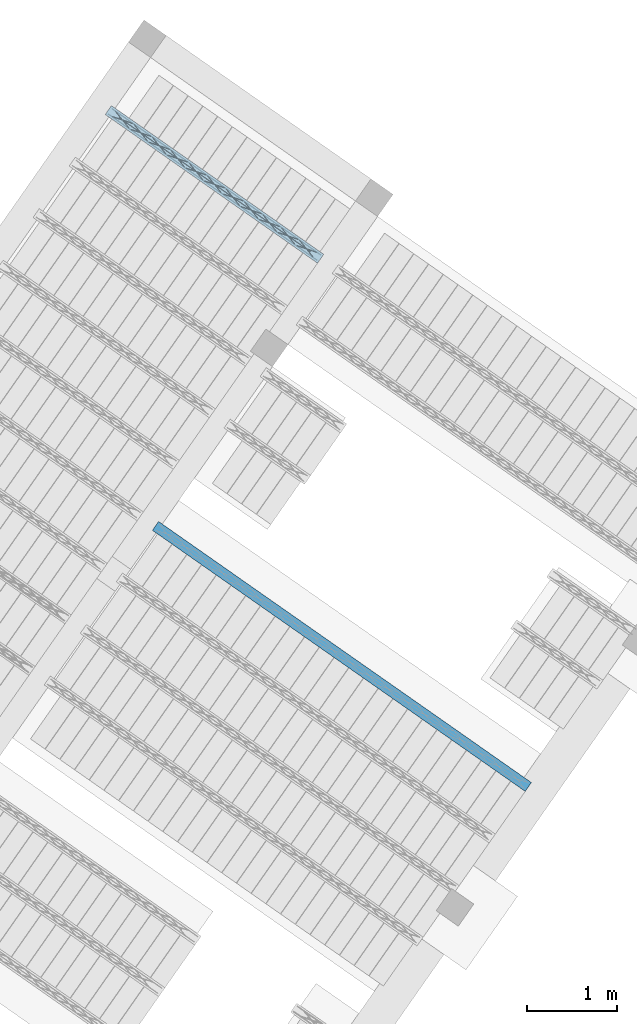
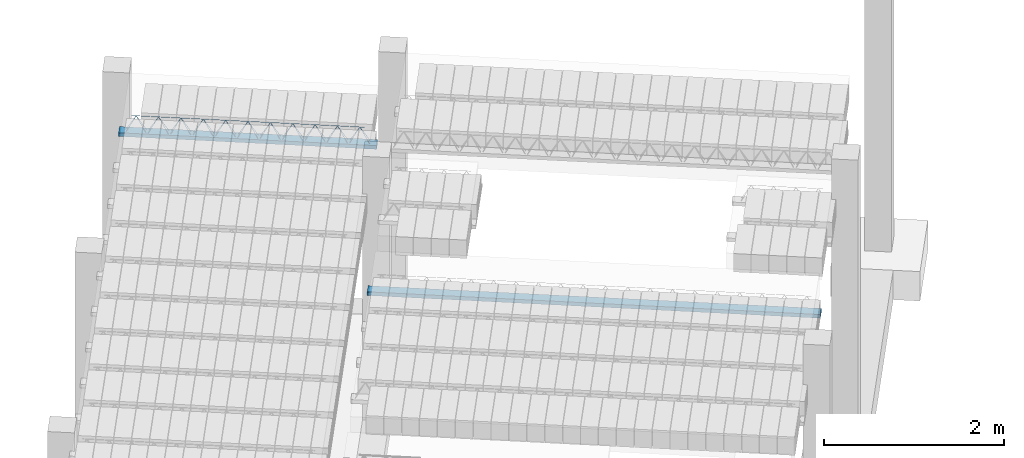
# One storey, part 42 of 80: 2 beams.
"""IFC2X3 building model written with IfcOpenShell, lengths in metres."""

from ifc_helpers import new_model, entity, si_unit, converted_unit, derived_unit, direction, frame, frame_2d, origin, origin_2d_with_axis, place, context, subcontext, project, spatial, rectangle, circle, extrude, material, type_object, element, save


model = new_model("IFC2X3")

# Units and contexts
model_context = context("Model", 3, precision=1e-05, world=origin(), true_north=direction((6.123031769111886e-17, 1.0)))
body_context = subcontext(model_context, "Body", "Model", "MODEL_VIEW")
ifc_project = project(units=[si_unit("LENGTHUNIT", "METRE"), si_unit("AREAUNIT", "SQUARE_METRE"), si_unit("VOLUMEUNIT", "CUBIC_METRE"), converted_unit("PLANEANGLEUNIT", "DEGREE", entity("IfcPlaneAngleMeasure", 0.017453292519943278), si_unit("PLANEANGLEUNIT", "RADIAN"), dimensions=[0, 0, 0, 0, 0, 0, 0]), si_unit("MASSUNIT", "GRAM", prefix="KILO"), derived_unit("MASSDENSITYUNIT", [(si_unit("MASSUNIT", "GRAM", prefix="KILO"), 1), (si_unit("LENGTHUNIT", "METRE"), -3)]), derived_unit("IONCONCENTRATIONUNIT", [(si_unit("MASSUNIT", "GRAM", prefix="KILO"), 1), (si_unit("LENGTHUNIT", "METRE"), -3)]), derived_unit("MOMENTOFINERTIAUNIT", [(si_unit("LENGTHUNIT", "METRE"), 4)]), si_unit("TIMEUNIT", "SECOND"), si_unit("FREQUENCYUNIT", "HERTZ"), si_unit("THERMODYNAMICTEMPERATUREUNIT", "DEGREE_CELSIUS"), derived_unit("THERMALTRANSMITTANCEUNIT", [(si_unit("MASSUNIT", "GRAM", prefix="KILO"), 1), (si_unit("THERMODYNAMICTEMPERATUREUNIT", "KELVIN"), -1), (si_unit("TIMEUNIT", "SECOND"), -3)]), derived_unit("THERMALCONDUCTANCEUNIT", [(si_unit("MASSUNIT", "GRAM", prefix="KILO"), 1), (si_unit("THERMODYNAMICTEMPERATUREUNIT", "KELVIN"), -1), (si_unit("TIMEUNIT", "SECOND"), -3), (si_unit("LENGTHUNIT", "METRE"), 1)]), derived_unit("VOLUMETRICFLOWRATEUNIT", [(si_unit("LENGTHUNIT", "METRE", prefix="DECI"), 3), (si_unit("TIMEUNIT", "SECOND"), -1)]), derived_unit("MASSFLOWRATEUNIT", [(si_unit("MASSUNIT", "GRAM", prefix="KILO"), 1), (si_unit("TIMEUNIT", "SECOND"), -1)]), derived_unit("ROTATIONALFREQUENCYUNIT", [(si_unit("TIMEUNIT", "SECOND"), -1)]), si_unit("ELECTRICCURRENTUNIT", "AMPERE"), si_unit("ELECTRICVOLTAGEUNIT", "VOLT"), si_unit("POWERUNIT", "WATT"), si_unit("FORCEUNIT", "NEWTON", prefix="KILO"), si_unit("ILLUMINANCEUNIT", "LUX"), si_unit("LUMINOUSFLUXUNIT", "LUMEN"), si_unit("LUMINOUSINTENSITYUNIT", "CANDELA"), si_unit("ENERGYUNIT", "JOULE"), derived_unit("USERDEFINED", [(si_unit("MASSUNIT", "GRAM", prefix="KILO"), -1), (si_unit("LENGTHUNIT", "METRE"), -2), (si_unit("TIMEUNIT", "SECOND"), 3), (si_unit("LUMINOUSFLUXUNIT", "LUMEN"), 1)]), derived_unit("USERDEFINED", [(si_unit("MASSUNIT", "GRAM", prefix="KILO"), 1), (si_unit("TIMEUNIT", "SECOND"), -3), (si_unit("LENGTHUNIT", "METRE"), 3), (si_unit("ELECTRICCURRENTUNIT", "AMPERE"), -2)]), derived_unit("SOUNDPOWERUNIT", [(si_unit("MASSUNIT", "GRAM", prefix="KILO"), 1), (si_unit("TIMEUNIT", "SECOND"), -3), (si_unit("LENGTHUNIT", "METRE"), 2)]), derived_unit("SOUNDPRESSUREUNIT", [(si_unit("MASSUNIT", "GRAM", prefix="KILO"), 1), (si_unit("LENGTHUNIT", "METRE"), -1), (si_unit("TIMEUNIT", "SECOND"), -2)]), derived_unit("LINEARVELOCITYUNIT", [(si_unit("LENGTHUNIT", "METRE"), 1), (si_unit("TIMEUNIT", "SECOND"), -1)]), si_unit("PRESSUREUNIT", "PASCAL"), derived_unit("USERDEFINED", [(si_unit("MASSUNIT", "GRAM", prefix="KILO"), 1), (si_unit("LENGTHUNIT", "METRE"), -2), (si_unit("TIMEUNIT", "SECOND"), -2)]), derived_unit("LINEARFORCEUNIT", [(si_unit("MASSUNIT", "GRAM", prefix="KILO"), 1), (si_unit("TIMEUNIT", "SECOND"), -2)]), derived_unit("PLANARFORCEUNIT", [(si_unit("MASSUNIT", "GRAM", prefix="KILO"), 1), (si_unit("LENGTHUNIT", "METRE"), -1), (si_unit("TIMEUNIT", "SECOND"), -2)]), derived_unit("SPECIFICHEATCAPACITYUNIT", [(si_unit("THERMODYNAMICTEMPERATUREUNIT", "KELVIN"), -1), (si_unit("LENGTHUNIT", "METRE"), 2), (si_unit("TIMEUNIT", "SECOND"), -2)]), derived_unit("HEATFLUXDENSITYUNIT", [(si_unit("MASSUNIT", "GRAM", prefix="KILO"), 1), (si_unit("TIMEUNIT", "SECOND"), -3)]), derived_unit("HEATINGVALUEUNIT", [(si_unit("LENGTHUNIT", "METRE"), 2), (si_unit("TIMEUNIT", "SECOND"), -2)]), derived_unit("VAPORPERMEABILITYUNIT", [(si_unit("LENGTHUNIT", "METRE"), -1), (si_unit("TIMEUNIT", "SECOND"), 1)]), derived_unit("DYNAMICVISCOSITYUNIT", [(si_unit("MASSUNIT", "GRAM", prefix="KILO"), 1), (si_unit("TIMEUNIT", "SECOND"), -1), (si_unit("LENGTHUNIT", "METRE"), -1)]), derived_unit("THERMALEXPANSIONCOEFFICIENTUNIT", [(si_unit("THERMODYNAMICTEMPERATUREUNIT", "KELVIN"), -1)]), derived_unit("MODULUSOFELASTICITYUNIT", [(si_unit("MASSUNIT", "GRAM", prefix="KILO"), 1), (si_unit("LENGTHUNIT", "METRE"), -1), (si_unit("TIMEUNIT", "SECOND"), -2)]), derived_unit("ISOTHERMALMOISTURECAPACITYUNIT", [(si_unit("MASSUNIT", "GRAM", prefix="KILO"), -1), (si_unit("LENGTHUNIT", "METRE"), 3)]), derived_unit("MOISTUREDIFFUSIVITYUNIT", [(si_unit("TIMEUNIT", "SECOND"), -1), (si_unit("LENGTHUNIT", "METRE"), 2)]), derived_unit("MASSPERLENGTHUNIT", [(si_unit("MASSUNIT", "GRAM", prefix="KILO"), 1), (si_unit("LENGTHUNIT", "METRE"), -1)]), derived_unit("THERMALRESISTANCEUNIT", [(si_unit("MASSUNIT", "GRAM", prefix="KILO"), -1), (si_unit("TIMEUNIT", "SECOND"), 3), (si_unit("THERMODYNAMICTEMPERATUREUNIT", "KELVIN"), 1)]), derived_unit("ACCELERATIONUNIT", [(si_unit("LENGTHUNIT", "METRE"), 1), (si_unit("TIMEUNIT", "SECOND"), -2)]), derived_unit("ANGULARVELOCITYUNIT", [(si_unit("TIMEUNIT", "SECOND"), -1), (si_unit("PLANEANGLEUNIT", "RADIAN"), 1)]), derived_unit("LINEARSTIFFNESSUNIT", [(si_unit("MASSUNIT", "GRAM", prefix="KILO"), 1), (si_unit("TIMEUNIT", "SECOND"), -2)]), derived_unit("WARPINGCONSTANTUNIT", [(si_unit("LENGTHUNIT", "METRE"), 6)]), derived_unit("LINEARMOMENTUNIT", [(si_unit("MASSUNIT", "GRAM", prefix="KILO"), 1), (si_unit("LENGTHUNIT", "METRE"), 1), (si_unit("TIMEUNIT", "SECOND"), -2)]), derived_unit("TORQUEUNIT", [(si_unit("MASSUNIT", "GRAM", prefix="KILO"), 1), (si_unit("LENGTHUNIT", "METRE"), 2), (si_unit("TIMEUNIT", "SECOND"), -2)])], contexts=[model_context])

# Site, building, storey
site_placement = place(None, origin())
site = spatial("IfcSite", under=ifc_project, at=site_placement, Name="Default", CompositionType="ELEMENT")
building_placement = place(site_placement, origin())
building = spatial("IfcBuilding", under=site, at=building_placement, CompositionType="ELEMENT")
storey_placement = place(building_placement, frame((0.0, 0.0, 95.94)))
storey = spatial("IfcBuildingStorey", under=building, at=storey_placement, Name="PB", CompositionType="ELEMENT", Elevation=95.94)

# Beams
beam_type = type_object("IfcBeamType", Name="Vigueta 14 (Paño 2) (Mf = 11.17)", PredefinedType="JOIST")
beam_1_placement = place(storey_placement, origin())
element("IfcBeam", 1, at=beam_1_placement, inside=storey, type_object=beam_type, Name="Vigueta 14 (Paño 2) (Mf = 11.17)", ObjectType="Mf = 11.17", context=body_context, shape_type="SweptSolid", body=[
    extrude(rectangle(XDim=2.8843209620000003, YDim=0.12000000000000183, at=frame_2d((2.220446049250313e-16, -1.016547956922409e-15), x_axis=(1.0, 0.0))), frame((5.221006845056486, 9.345805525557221, 2.82), z_axis=(0.0, 0.0, 1.0), x_axis=(0.8191520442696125, -0.5735764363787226, 0.0)), (0.0, 0.0, 1.0), 0.04999999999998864),
    extrude(circle(Radius=0.0025, at=origin_2d_with_axis()), frame((6.362047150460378, 8.502892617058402, 2.8449999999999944), z_axis=(-0.8191520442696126, 0.5735764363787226, 0.0), x_axis=(-0.5735764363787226, -0.8191520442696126, 0.0)), (0.0, 0.0, 1.0), 2.8363209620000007),
    extrude(circle(Radius=0.0025, at=origin_2d_with_axis()), frame((4.156109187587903, 10.091454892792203, 3.069999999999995), z_axis=(0.8191520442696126, -0.5735764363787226, 0.0), x_axis=(-0.5735764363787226, -0.8191520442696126, 0.0)), (0.0, 0.0, 1.0), 2.599999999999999),
    extrude(circle(Radius=0.0025, at=origin_2d_with_axis()), frame((6.326692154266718, 8.527648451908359, 2.8449999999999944), z_axis=(-0.3145304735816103, 0.389334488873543, 0.8657304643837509), x_axis=(-0.7778747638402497, -0.6284193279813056, 0.0)), (0.0, 0.0, 1.0), 0.2598961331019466),
    extrude(circle(Radius=0.0025, at=origin_2d_with_axis()), frame((6.121904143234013, 8.671042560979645, 2.8449999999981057), z_axis=(0.47343050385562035, -0.1624017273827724, 0.8657304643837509), x_axis=(-0.3244721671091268, -0.9458952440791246, 0.0)), (0.0, 0.0, 1.0), 0.25989613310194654),
    extrude(circle(Radius=0.0025, at=origin_2d_with_axis()), frame((6.12190414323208, 8.671042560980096, 2.8449999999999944), z_axis=(-0.3145304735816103, 0.389334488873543, 0.8657304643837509), x_axis=(-0.7778747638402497, -0.6284193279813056, 0.0)), (0.0, 0.0, 1.0), 0.2598961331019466),
    extrude(circle(Radius=0.0025, at=origin_2d_with_axis()), frame((5.91711613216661, 8.814436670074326, 2.8449999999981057), z_axis=(0.47343050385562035, -0.1624017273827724, 0.8657304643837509), x_axis=(-0.3244721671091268, -0.9458952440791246, 0.0)), (0.0, 0.0, 1.0), 0.25989613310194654),
    extrude(circle(Radius=0.0025, at=origin_2d_with_axis()), frame((5.9171161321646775, 8.814436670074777, 2.8449999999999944), z_axis=(-0.3145304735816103, 0.389334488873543, 0.8657304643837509), x_axis=(-0.7778747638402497, -0.6284193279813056, 0.0)), (0.0, 0.0, 1.0), 0.2598961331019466),
    extrude(circle(Radius=0.0025, at=origin_2d_with_axis()), frame((5.712328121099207, 8.957830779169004, 2.8449999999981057), z_axis=(0.47343050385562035, -0.1624017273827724, 0.8657304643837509), x_axis=(-0.3244721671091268, -0.9458952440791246, 0.0)), (0.0, 0.0, 1.0), 0.25989613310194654),
    extrude(circle(Radius=0.0025, at=origin_2d_with_axis()), frame((5.712328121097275, 8.957830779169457, 2.8449999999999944), z_axis=(-0.3145304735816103, 0.389334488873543, 0.8657304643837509), x_axis=(-0.7778747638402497, -0.6284193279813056, 0.0)), (0.0, 0.0, 1.0), 0.2598961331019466),
    extrude(circle(Radius=0.0025, at=origin_2d_with_axis()), frame((5.507540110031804, 9.101224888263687, 2.8449999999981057), z_axis=(0.47343050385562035, -0.1624017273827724, 0.8657304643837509), x_axis=(-0.3244721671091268, -0.9458952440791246, 0.0)), (0.0, 0.0, 1.0), 0.25989613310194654),
    extrude(circle(Radius=0.0025, at=origin_2d_with_axis()), frame((5.507540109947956, 9.101224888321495, 2.8449999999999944), z_axis=(-0.3145304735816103, 0.389334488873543, 0.8657304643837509), x_axis=(-0.7778747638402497, -0.6284193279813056, 0.0)), (0.0, 0.0, 1.0), 0.2598961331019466),
    extrude(circle(Radius=0.0025, at=origin_2d_with_axis()), frame((5.302752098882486, 9.244618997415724, 2.8449999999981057), z_axis=(0.47343050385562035, -0.1624017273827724, 0.8657304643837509), x_axis=(-0.3244721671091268, -0.9458952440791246, 0.0)), (0.0, 0.0, 1.0), 0.25989613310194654),
    extrude(circle(Radius=0.0025, at=origin_2d_with_axis()), frame((5.302752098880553, 9.244618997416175, 2.8449999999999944), z_axis=(-0.3145304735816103, 0.389334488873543, 0.8657304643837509), x_axis=(-0.7778747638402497, -0.6284193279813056, 0.0)), (0.0, 0.0, 1.0), 0.2598961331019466),
    extrude(circle(Radius=0.0025, at=origin_2d_with_axis()), frame((5.097964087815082, 9.388013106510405, 2.8449999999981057), z_axis=(0.47343050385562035, -0.1624017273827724, 0.8657304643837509), x_axis=(-0.3244721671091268, -0.9458952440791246, 0.0)), (0.0, 0.0, 1.0), 0.25989613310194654),
    extrude(circle(Radius=0.0025, at=origin_2d_with_axis()), frame((5.097964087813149, 9.388013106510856, 2.8449999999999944), z_axis=(-0.3145304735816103, 0.389334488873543, 0.8657304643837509), x_axis=(-0.7778747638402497, -0.6284193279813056, 0.0)), (0.0, 0.0, 1.0), 0.2598961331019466),
    extrude(circle(Radius=0.0025, at=origin_2d_with_axis()), frame((4.893176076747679, 9.531407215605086, 2.8449999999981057), z_axis=(0.47343050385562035, -0.1624017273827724, 0.8657304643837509), x_axis=(-0.3244721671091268, -0.9458952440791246, 0.0)), (0.0, 0.0, 1.0), 0.25989613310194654),
    extrude(circle(Radius=0.0025, at=origin_2d_with_axis()), frame((4.893176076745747, 9.531407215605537, 2.8449999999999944), z_axis=(-0.3145304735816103, 0.389334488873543, 0.8657304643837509), x_axis=(-0.7778747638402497, -0.6284193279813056, 0.0)), (0.0, 0.0, 1.0), 0.2598961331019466),
    extrude(circle(Radius=0.0025, at=origin_2d_with_axis()), frame((4.688388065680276, 9.674801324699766, 2.8449999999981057), z_axis=(0.47343050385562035, -0.1624017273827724, 0.8657304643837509), x_axis=(-0.3244721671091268, -0.9458952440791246, 0.0)), (0.0, 0.0, 1.0), 0.25989613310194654),
    extrude(circle(Radius=0.0025, at=origin_2d_with_axis()), frame((4.688388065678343, 9.674801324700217, 2.8449999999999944), z_axis=(-0.3145304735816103, 0.389334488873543, 0.8657304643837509), x_axis=(-0.7778747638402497, -0.6284193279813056, 0.0)), (0.0, 0.0, 1.0), 0.2598961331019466),
    extrude(circle(Radius=0.0025, at=origin_2d_with_axis()), frame((4.4836000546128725, 9.818195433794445, 2.8449999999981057), z_axis=(0.47343050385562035, -0.1624017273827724, 0.8657304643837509), x_axis=(-0.3244721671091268, -0.9458952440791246, 0.0)), (0.0, 0.0, 1.0), 0.25989613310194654),
    extrude(circle(Radius=0.0025, at=origin_2d_with_axis()), frame((4.483600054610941, 9.818195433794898, 2.8449999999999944), z_axis=(-0.3145304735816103, 0.389334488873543, 0.8657304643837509), x_axis=(-0.7778747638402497, -0.6284193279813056, 0.0)), (0.0, 0.0, 1.0), 0.2598961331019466),
    extrude(circle(Radius=0.0025, at=origin_2d_with_axis()), frame((4.27881204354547, 9.961589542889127, 2.8449999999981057), z_axis=(0.47343050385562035, -0.1624017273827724, 0.8657304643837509), x_axis=(-0.3244721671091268, -0.9458952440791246, 0.0)), (0.0, 0.0, 1.0), 0.25989613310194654),
    extrude(circle(Radius=0.0025, at=origin_2d_with_axis()), frame((4.278812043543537, 9.961589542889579, 2.8449999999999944), z_axis=(-0.3145304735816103, 0.389334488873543, 0.8657304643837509), x_axis=(-0.7778747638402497, -0.6284193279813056, 0.0)), (0.0, 0.0, 1.0), 0.2598961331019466),
    extrude(circle(Radius=0.0025, at=origin_2d_with_axis()), frame((4.074024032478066, 10.104983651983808, 2.8449999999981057), z_axis=(0.47343050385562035, -0.1624017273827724, 0.8657304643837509), x_axis=(-0.3244721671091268, -0.9458952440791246, 0.0)), (0.0, 0.0, 1.0), 0.25989613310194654),
    extrude(circle(Radius=0.0025, at=origin_2d_with_axis()), frame((4.079966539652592, 10.188718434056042, 2.8449999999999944), z_axis=(0.8191520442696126, -0.5735764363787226, 0.0), x_axis=(-0.5735764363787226, -0.8191520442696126, 0.0)), (0.0, 0.0, 1.0), 2.8363209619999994),
    extrude(circle(Radius=0.0025, at=origin_2d_with_axis()), frame((6.367989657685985, 8.58662739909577, 2.8449999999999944), z_axis=(-0.47343050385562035, 0.1624017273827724, 0.8657304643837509), x_axis=(-0.3244721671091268, -0.9458952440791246, 0.0)), (0.0, 0.0, 1.0), 0.25989613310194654),
    extrude(circle(Radius=0.0025, at=origin_2d_with_axis()), frame((6.163201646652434, 8.730021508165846, 2.8449999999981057), z_axis=(0.3145304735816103, -0.389334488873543, 0.8657304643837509), x_axis=(-0.7778747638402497, -0.6284193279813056, 0.0)), (0.0, 0.0, 1.0), 0.2598961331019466),
    extrude(circle(Radius=0.0025, at=origin_2d_with_axis()), frame((6.1632016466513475, 8.730021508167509, 2.8449999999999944), z_axis=(-0.47343050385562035, 0.1624017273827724, 0.8657304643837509), x_axis=(-0.3244721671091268, -0.9458952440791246, 0.0)), (0.0, 0.0, 1.0), 0.25989613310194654),
    extrude(circle(Radius=0.0025, at=origin_2d_with_axis()), frame((5.958413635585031, 8.873415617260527, 2.8449999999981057), z_axis=(0.3145304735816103, -0.389334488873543, 0.8657304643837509), x_axis=(-0.7778747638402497, -0.6284193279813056, 0.0)), (0.0, 0.0, 1.0), 0.2598961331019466),
    extrude(circle(Radius=0.0025, at=origin_2d_with_axis()), frame((5.958413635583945, 8.873415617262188, 2.8449999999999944), z_axis=(-0.47343050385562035, 0.1624017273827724, 0.8657304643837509), x_axis=(-0.3244721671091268, -0.9458952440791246, 0.0)), (0.0, 0.0, 1.0), 0.25989613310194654),
    extrude(circle(Radius=0.0025, at=origin_2d_with_axis()), frame((5.753625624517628, 9.016809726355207, 2.8449999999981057), z_axis=(0.3145304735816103, -0.389334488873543, 0.8657304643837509), x_axis=(-0.7778747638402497, -0.6284193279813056, 0.0)), (0.0, 0.0, 1.0), 0.2598961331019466),
    extrude(circle(Radius=0.0025, at=origin_2d_with_axis()), frame((5.753625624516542, 9.016809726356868, 2.8449999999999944), z_axis=(-0.47343050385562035, 0.1624017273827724, 0.8657304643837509), x_axis=(-0.3244721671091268, -0.9458952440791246, 0.0)), (0.0, 0.0, 1.0), 0.25989613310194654),
    extrude(circle(Radius=0.0025, at=origin_2d_with_axis()), frame((5.548837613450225, 9.160203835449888, 2.8449999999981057), z_axis=(0.3145304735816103, -0.389334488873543, 0.8657304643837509), x_axis=(-0.7778747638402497, -0.6284193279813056, 0.0)), (0.0, 0.0, 1.0), 0.2598961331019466),
    extrude(circle(Radius=0.0025, at=origin_2d_with_axis()), frame((5.5488376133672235, 9.160203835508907, 2.8449999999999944), z_axis=(-0.47343050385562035, 0.1624017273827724, 0.8657304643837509), x_axis=(-0.3244721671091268, -0.9458952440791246, 0.0)), (0.0, 0.0, 1.0), 0.25989613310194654),
    extrude(circle(Radius=0.0025, at=origin_2d_with_axis()), frame((5.344049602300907, 9.303597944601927, 2.8449999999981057), z_axis=(0.3145304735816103, -0.389334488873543, 0.8657304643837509), x_axis=(-0.7778747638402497, -0.6284193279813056, 0.0)), (0.0, 0.0, 1.0), 0.2598961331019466),
    extrude(circle(Radius=0.0025, at=origin_2d_with_axis()), frame((5.344049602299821, 9.303597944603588, 2.8449999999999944), z_axis=(-0.47343050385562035, 0.1624017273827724, 0.8657304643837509), x_axis=(-0.3244721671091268, -0.9458952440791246, 0.0)), (0.0, 0.0, 1.0), 0.25989613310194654),
    extrude(circle(Radius=0.0025, at=origin_2d_with_axis()), frame((5.1392615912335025, 9.446992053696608, 2.8449999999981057), z_axis=(0.3145304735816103, -0.389334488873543, 0.8657304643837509), x_axis=(-0.7778747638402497, -0.6284193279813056, 0.0)), (0.0, 0.0, 1.0), 0.2598961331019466),
    extrude(circle(Radius=0.0025, at=origin_2d_with_axis()), frame((5.139261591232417, 9.446992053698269, 2.8449999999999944), z_axis=(-0.47343050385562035, 0.1624017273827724, 0.8657304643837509), x_axis=(-0.3244721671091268, -0.9458952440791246, 0.0)), (0.0, 0.0, 1.0), 0.25989613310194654),
    extrude(circle(Radius=0.0025, at=origin_2d_with_axis()), frame((4.9344735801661, 9.590386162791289, 2.8449999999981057), z_axis=(0.3145304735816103, -0.389334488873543, 0.8657304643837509), x_axis=(-0.7778747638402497, -0.6284193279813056, 0.0)), (0.0, 0.0, 1.0), 0.2598961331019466),
    extrude(circle(Radius=0.0025, at=origin_2d_with_axis()), frame((4.934473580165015, 9.59038616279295, 2.8449999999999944), z_axis=(-0.47343050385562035, 0.1624017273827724, 0.8657304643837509), x_axis=(-0.3244721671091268, -0.9458952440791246, 0.0)), (0.0, 0.0, 1.0), 0.25989613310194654),
    extrude(circle(Radius=0.0025, at=origin_2d_with_axis()), frame((4.729685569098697, 9.73378027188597, 2.8449999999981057), z_axis=(0.3145304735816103, -0.389334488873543, 0.8657304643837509), x_axis=(-0.7778747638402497, -0.6284193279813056, 0.0)), (0.0, 0.0, 1.0), 0.2598961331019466),
    extrude(circle(Radius=0.0025, at=origin_2d_with_axis()), frame((4.729685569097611, 9.73378027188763, 2.8449999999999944), z_axis=(-0.47343050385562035, 0.1624017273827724, 0.8657304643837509), x_axis=(-0.3244721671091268, -0.9458952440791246, 0.0)), (0.0, 0.0, 1.0), 0.25989613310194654),
    extrude(circle(Radius=0.0025, at=origin_2d_with_axis()), frame((4.524897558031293, 9.877174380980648, 2.8449999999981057), z_axis=(0.3145304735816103, -0.389334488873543, 0.8657304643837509), x_axis=(-0.7778747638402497, -0.6284193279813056, 0.0)), (0.0, 0.0, 1.0), 0.2598961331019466),
    extrude(circle(Radius=0.0025, at=origin_2d_with_axis()), frame((4.524897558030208, 9.87717438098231, 2.8449999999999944), z_axis=(-0.47343050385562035, 0.1624017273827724, 0.8657304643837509), x_axis=(-0.3244721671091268, -0.9458952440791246, 0.0)), (0.0, 0.0, 1.0), 0.25989613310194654),
    extrude(circle(Radius=0.0025, at=origin_2d_with_axis()), frame((4.320109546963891, 10.020568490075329, 2.8449999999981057), z_axis=(0.3145304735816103, -0.389334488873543, 0.8657304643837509), x_axis=(-0.7778747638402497, -0.6284193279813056, 0.0)), (0.0, 0.0, 1.0), 0.2598961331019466),
    extrude(circle(Radius=0.0025, at=origin_2d_with_axis()), frame((4.320109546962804, 10.02056849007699, 2.8449999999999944), z_axis=(-0.47343050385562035, 0.1624017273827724, 0.8657304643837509), x_axis=(-0.3244721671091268, -0.9458952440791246, 0.0)), (0.0, 0.0, 1.0), 0.25989613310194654),
    extrude(circle(Radius=0.0025, at=origin_2d_with_axis()), frame((4.115321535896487, 10.163962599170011, 2.8449999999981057), z_axis=(0.3145304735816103, -0.389334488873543, 0.8657304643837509), x_axis=(-0.7778747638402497, -0.6284193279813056, 0.0)), (0.0, 0.0, 1.0), 0.2598961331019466),
])
ifc_material = material(Name="Hormigón armado")
beam_2_placement = place(storey_placement, origin())
element("IfcBeam", 2, at=beam_2_placement, inside=storey, material=ifc_material, Name="238443", context=body_context, shape_type="SweptSolid", body=[
    extrude(rectangle(XDim=0.04999999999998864, YDim=0.12000000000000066, at=frame_2d((0.0, -7.528699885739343e-16), x_axis=(1.0, 0.0))), frame((4.564404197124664, 5.545060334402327, 3.3049999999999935), z_axis=(0.8191520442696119, -0.5735764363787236, 0.0), x_axis=(0.0, 0.0, -1.0)), (0.0, 0.0, 1.0), 5.065554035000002),
])

save(model, "model.ifc")
